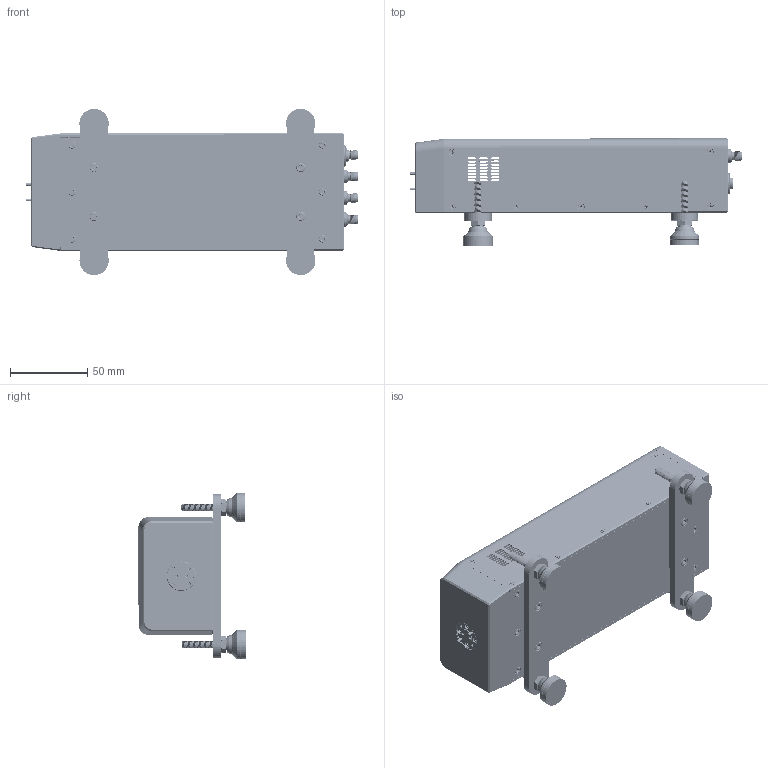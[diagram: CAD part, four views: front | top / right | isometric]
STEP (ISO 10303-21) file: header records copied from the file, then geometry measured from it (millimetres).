
FILE_DESCRIPTION (( 'STEP AP214' ), '1' );
FILE_NAME ('TO-S03-A-4, DF.STEP', '2025-09-03T17:55:38', ( '' ), ( '' ), 'SwSTEP 2.0', 'SolidWorks 2021', '' );
FILE_SCHEMA (( 'AUTOMOTIVE_DESIGN' ));
Length unit declared in the file: inch
Products named in the file (1): TO-S03-A-4, DF
Bounding box: 215.5 x 69.59 x 108.03 mm (x, y, z)
Volume: 261911.2 mm3; surface area: 173108.9 mm2
Topology: 102 solids, 108 shells, 6001 faces, 15853 edges, 10117 vertices
Faces by surface type: cylinder 2872, plane 1622, cone 980, bspline 474, sphere 41, torus 12
Entity records: 411371 total; most frequent: CARTESIAN_POINT 199359, ORIENTED_EDGE 31308, DIRECTION 23910, EDGE_CURVE 15654, VERTEX_POINT 10087, AXIS2_PLACEMENT_3D 8847, EDGE_LOOP 6549, VECTOR 6216
